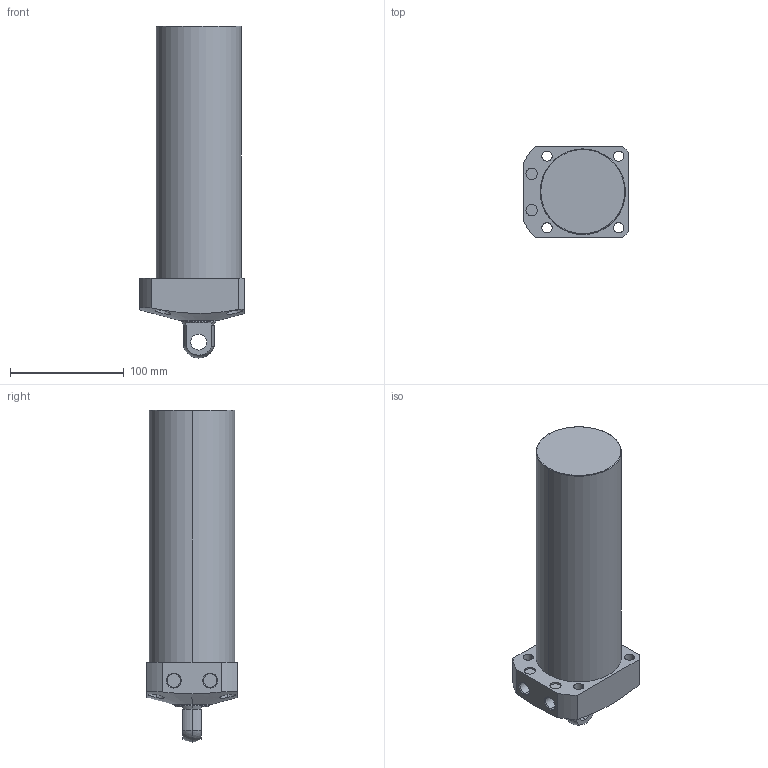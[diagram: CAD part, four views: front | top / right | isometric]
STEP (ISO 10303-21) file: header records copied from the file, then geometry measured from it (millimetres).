
FILE_DESCRIPTION (( 'STEP AP203' ), '1' );
FILE_NAME ('CLL-075CP-185.STEP', '2019-12-25T08:06:09', ( '' ), ( '' ), 'SwSTEP 2.0', 'SolidWorks 2015', '' );
FILE_SCHEMA (( 'CONFIG_CONTROL_DESIGN' ));
Length unit declared in the file: millimetre
Products named in the file (1): CLL-075CP-185
Bounding box: 92 x 80 x 292 mm (x, y, z)
Volume: 1208207.9 mm3; surface area: 84211.2 mm2
Topology: 1 solids, 1 shells, 68 faces, 159 edges, 103 vertices
Faces by surface type: cylinder 35, plane 21, cone 8, sphere 2, torus 2
Entity records: 2459 total; most frequent: CARTESIAN_POINT 762, DIRECTION 357, ORIENTED_EDGE 318, EDGE_CURVE 159, AXIS2_PLACEMENT_3D 149, VERTEX_POINT 103, EDGE_LOOP 88, CIRCLE 80
